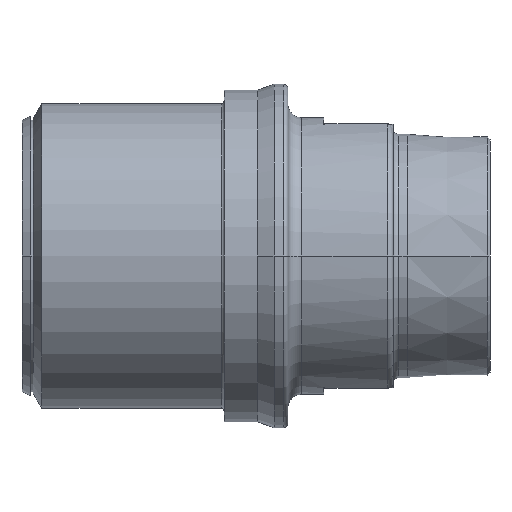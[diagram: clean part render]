
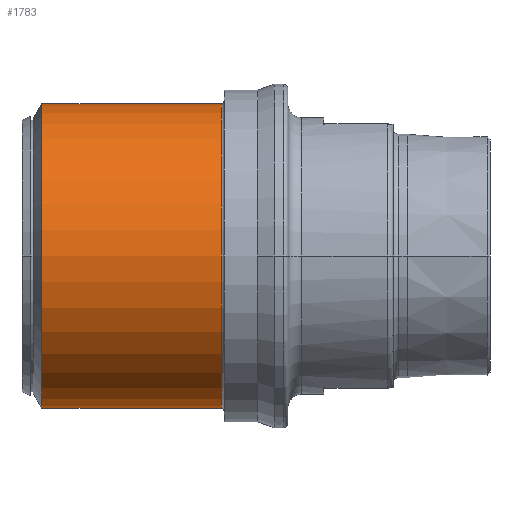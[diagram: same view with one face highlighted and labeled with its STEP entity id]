
A CAD part, front view. The second image highlights one B-rep face of the part: STEP entity #1783.
In plain terms, the highlighted cylindrical face has radius 55 mm (diameter 110 mm), a partial arc.
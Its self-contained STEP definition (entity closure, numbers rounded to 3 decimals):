
#19 = EDGE_CURVE ( 'NONE', #1718, #1717, #528, .T. ) ;
#20 = EDGE_CURVE ( 'NONE', #1712, #1718, #171, .T. ) ;
#21 = EDGE_CURVE ( 'NONE', #1712, #1716, #532, .T. ) ;
#48 = EDGE_CURVE ( 'NONE', #1716, #1717, #100, .T. ) ;
#100 = CIRCLE ( 'NONE', #118, 55. ) ;
#118 = AXIS2_PLACEMENT_3D ( 'NONE', #1282, #1283, #1284 ) ;
#166 = AXIS2_PLACEMENT_3D ( 'NONE', #535, #536, #537 ) ;
#169 = VECTOR ( 'NONE', #538, 1000. ) ;
#171 = CIRCLE ( 'NONE', #166, 55. ) ;
#173 = VECTOR ( 'NONE', #533, 1000. ) ;
#338 = ORIENTED_EDGE ( 'NONE', *, *, #48, .F. ) ;
#395 = EDGE_LOOP ( 'NONE', ( #984, #988, #986, #338 ) ) ;
#504 = CARTESIAN_POINT ( 'NONE',  ( -5.267, 0., -55. ) ) ;
#509 = CARTESIAN_POINT ( 'NONE',  ( -5.267, 0., 55. ) ) ;
#528 = LINE ( 'NONE', #509, #173 ) ;
#532 = LINE ( 'NONE', #504, #169 ) ;
#533 = DIRECTION ( 'NONE',  ( -1., 0., 0. ) ) ;
#535 = CARTESIAN_POINT ( 'NONE',  ( 72., 0., 0. ) ) ;
#536 = DIRECTION ( 'NONE',  ( -1., 0., 0. ) ) ;
#537 = DIRECTION ( 'NONE',  ( 0., 0., 1. ) ) ;
#538 = DIRECTION ( 'NONE',  ( -1., 0., 0. ) ) ;
#664 = AXIS2_PLACEMENT_3D ( 'NONE', #845, #841, #847 ) ;
#841 = DIRECTION ( 'NONE',  ( -1., 0., 0. ) ) ;
#844 = FACE_OUTER_BOUND ( 'NONE', #395, .T. ) ;
#845 = CARTESIAN_POINT ( 'NONE',  ( -5.267, 0., 0. ) ) ;
#846 = CYLINDRICAL_SURFACE ( 'NONE', #664, 55. ) ;
#847 = DIRECTION ( 'NONE',  ( 0., 0., 1. ) ) ;
#984 = ORIENTED_EDGE ( 'NONE', *, *, #21, .F. ) ;
#986 = ORIENTED_EDGE ( 'NONE', *, *, #19, .T. ) ;
#988 = ORIENTED_EDGE ( 'NONE', *, *, #20, .T. ) ;
#1208 = CARTESIAN_POINT ( 'NONE',  ( 72., 0., -55. ) ) ;
#1212 = CARTESIAN_POINT ( 'NONE',  ( 7.185, 0., -55. ) ) ;
#1213 = CARTESIAN_POINT ( 'NONE',  ( 7.185, 0., 55. ) ) ;
#1214 = CARTESIAN_POINT ( 'NONE',  ( 72., 0., 55. ) ) ;
#1282 = CARTESIAN_POINT ( 'NONE',  ( 7.185, 0., 0. ) ) ;
#1283 = DIRECTION ( 'NONE',  ( -1., 0., 0. ) ) ;
#1284 = DIRECTION ( 'NONE',  ( 0., 0., -1. ) ) ;
#1712 = VERTEX_POINT ( 'NONE', #1208 ) ;
#1716 = VERTEX_POINT ( 'NONE', #1212 ) ;
#1717 = VERTEX_POINT ( 'NONE', #1213 ) ;
#1718 = VERTEX_POINT ( 'NONE', #1214 ) ;
#1783 = ADVANCED_FACE ( 'NONE', ( #844 ), #846, .T. ) ;
